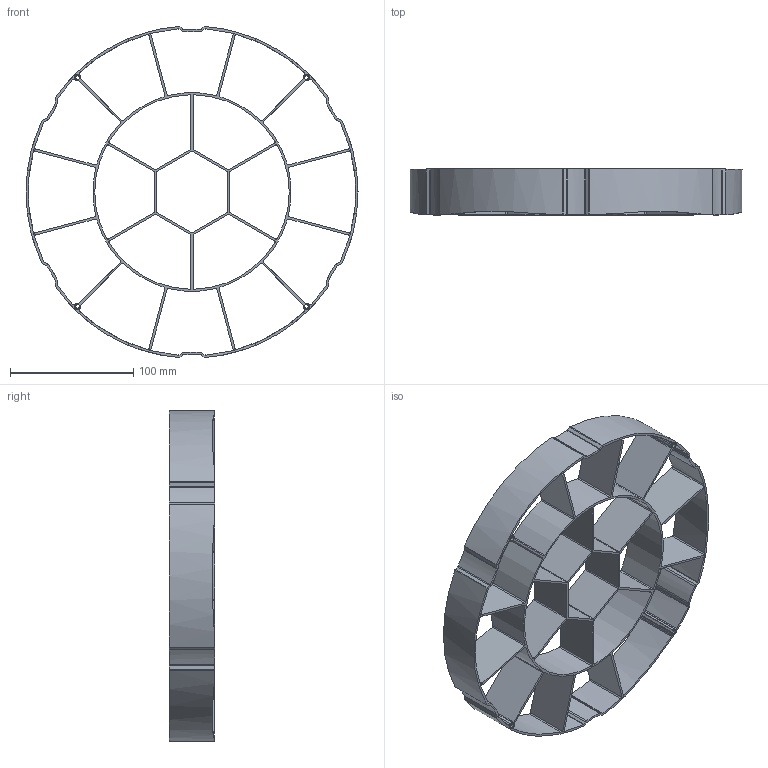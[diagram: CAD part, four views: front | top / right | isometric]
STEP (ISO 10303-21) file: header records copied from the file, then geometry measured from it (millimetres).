
FILE_DESCRIPTION((''),'2;1');
FILE_NAME('GLP-13787','2022-04-19T12:54:18',('mr'),(''),'CREO PARAMETRIC BY PTC INC, 2019080','CREO PARAMETRIC BY PTC INC, 2019080','');
FILE_SCHEMA(('AUTOMOTIVE_DESIGN { 1 0 10303 214 1 1 1 1 }'));
Length unit declared in the file: millimetre
Products named in the file (1): GLP-13787
Bounding box: 269.88 x 37.2 x 269.04 mm (x, y, z)
Volume: 162299.8 mm3; surface area: 186979.1 mm2
Topology: 1 solids, 1 shells, 326 faces, 1008 edges, 672 vertices
Faces by surface type: cylinder 202, plane 88, extrusion 24, cone 12
Entity records: 12865 total; most frequent: CARTESIAN_POINT 3288, ORIENTED_EDGE 2016, DIRECTION 1832, EDGE_CURVE 1008, VERTEX_POINT 672, AXIS2_PLACEMENT_3D 659, VECTOR 511, LINE 487
